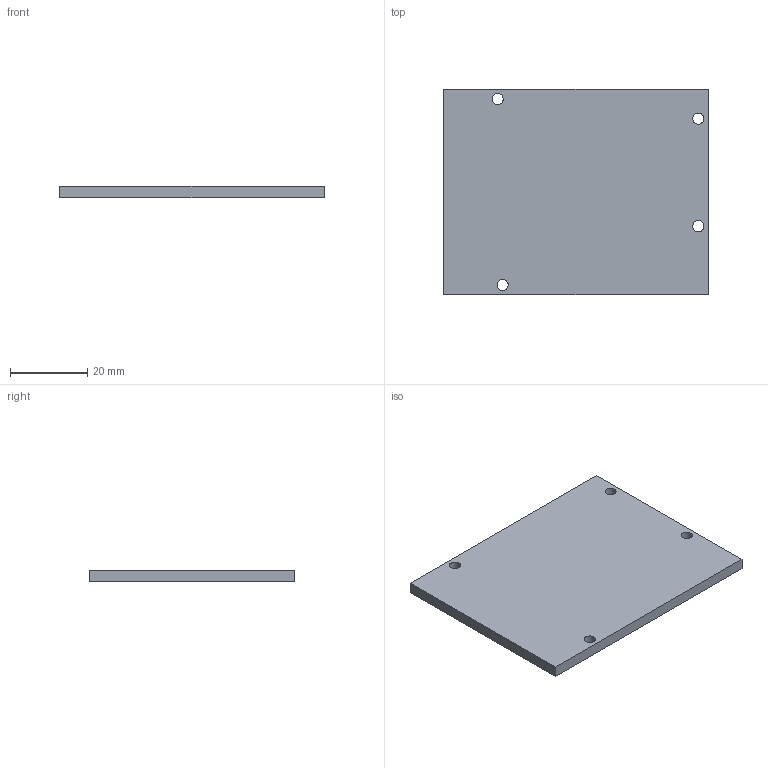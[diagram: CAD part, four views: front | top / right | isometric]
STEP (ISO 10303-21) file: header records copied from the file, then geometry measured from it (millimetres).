
FILE_DESCRIPTION(('FreeCAD Model'),'2;1');
FILE_NAME('Open CASCADE Shape Model','2026-09-11T23:31:28',('FreeCAD'),( 'FreeCAD'),'Open CASCADE STEP processor 7.8','FreeCAD','Unknown');
FILE_SCHEMA(('AUTOMOTIVE_DESIGN { 1 0 10303 214 1 1 1 1 }'));
Length unit declared in the file: millimetre
Products named in the file (1): Open CASCADE STEP translator 7.8 15
Bounding box: 68.58 x 53.34 x 3 mm (x, y, z)
Volume: 10894.9 mm3; surface area: 8104.1 mm2
Topology: 1 solids, 1 shells, 10 faces, 24 edges, 16 vertices
Faces by surface type: plane 6, cylinder 4
Full cylindrical faces by diameter (mm): 2.9 x4
Entity records: 322 total; most frequent: DIRECTION 54, CARTESIAN_POINT 51, ORIENTED_EDGE 48, EDGE_CURVE 24, AXIS2_PLACEMENT_3D 19, FACE_BOUND 18, EDGE_LOOP 18, VERTEX_POINT 16
